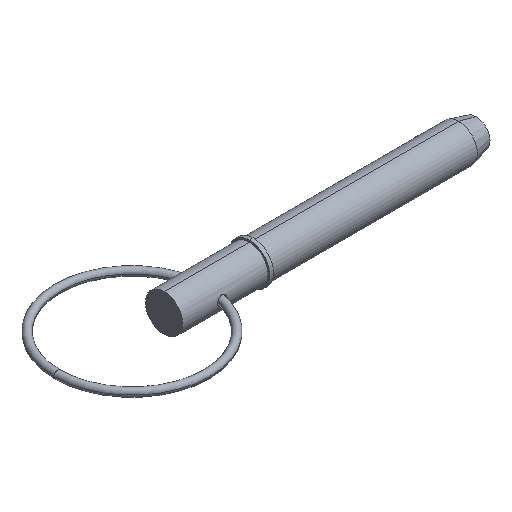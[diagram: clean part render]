
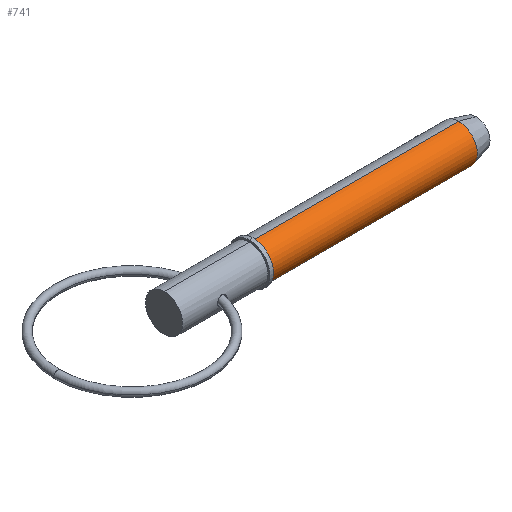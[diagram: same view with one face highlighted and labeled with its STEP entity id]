
A CAD part, isometric view. The second image highlights one B-rep face of the part: STEP entity #741.
In plain terms, the highlighted cylindrical face has radius 3.97 mm (diameter 7.94 mm), a partial arc.
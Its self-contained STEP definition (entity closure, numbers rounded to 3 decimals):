
#44 = CARTESIAN_POINT ( 'NONE',  ( 62.976, 0., 3.97 ) ) ;
#58 = DIRECTION ( 'NONE',  ( 0., 0., -1. ) ) ;
#60 = LINE ( 'NONE', #507, #432 ) ;
#69 = ORIENTED_EDGE ( 'NONE', *, *, #984, .T. ) ;
#179 = CARTESIAN_POINT ( 'NONE',  ( 62.976, 0., 0. ) ) ;
#227 = EDGE_CURVE ( 'NONE', #550, #488, #375, .T. ) ;
#232 = ORIENTED_EDGE ( 'NONE', *, *, #292, .T. ) ;
#285 = CIRCLE ( 'NONE', #910, 3.97 ) ;
#292 = EDGE_CURVE ( 'NONE', #550, #310, #802, .T. ) ;
#303 = ORIENTED_EDGE ( 'NONE', *, *, #826, .F. ) ;
#310 = VERTEX_POINT ( 'NONE', #975 ) ;
#318 = VECTOR ( 'NONE', #437, 1000. ) ;
#346 = DIRECTION ( 'NONE',  ( 1., 0., 0. ) ) ;
#360 = DIRECTION ( 'NONE',  ( 1., 0., 0. ) ) ;
#375 = LINE ( 'NONE', #909, #318 ) ;
#395 = CARTESIAN_POINT ( 'NONE',  ( 19.05, 0., 3.97 ) ) ;
#421 = CYLINDRICAL_SURFACE ( 'NONE', #878, 3.97 ) ;
#426 = CARTESIAN_POINT ( 'NONE',  ( 0., 0., 0. ) ) ;
#432 = VECTOR ( 'NONE', #754, 1000. ) ;
#437 = DIRECTION ( 'NONE',  ( 1., 0., 0. ) ) ;
#488 = VERTEX_POINT ( 'NONE', #44 ) ;
#507 = CARTESIAN_POINT ( 'NONE',  ( 0., 0., -3.97 ) ) ;
#528 = ORIENTED_EDGE ( 'NONE', *, *, #227, .F. ) ;
#550 = VERTEX_POINT ( 'NONE', #395 ) ;
#606 = EDGE_LOOP ( 'NONE', ( #528, #232, #69, #303 ) ) ;
#647 = DIRECTION ( 'NONE',  ( 0., 0., -1. ) ) ;
#725 = DIRECTION ( 'NONE',  ( 1., 0., 0. ) ) ;
#741 = ADVANCED_FACE ( 'NONE', ( #810 ), #421, .T. ) ;
#754 = DIRECTION ( 'NONE',  ( 1., 0., 0. ) ) ;
#802 = CIRCLE ( 'NONE', #925, 3.97 ) ;
#810 = FACE_OUTER_BOUND ( 'NONE', #606, .T. ) ;
#820 = CARTESIAN_POINT ( 'NONE',  ( 19.05, 0., 0. ) ) ;
#826 = EDGE_CURVE ( 'NONE', #488, #1000, #285, .T. ) ;
#866 = DIRECTION ( 'NONE',  ( 0., 0., -1. ) ) ;
#878 = AXIS2_PLACEMENT_3D ( 'NONE', #426, #346, #647 ) ;
#897 = CARTESIAN_POINT ( 'NONE',  ( 62.976, 0., -3.97 ) ) ;
#909 = CARTESIAN_POINT ( 'NONE',  ( 0., 0., 3.97 ) ) ;
#910 = AXIS2_PLACEMENT_3D ( 'NONE', #179, #725, #866 ) ;
#925 = AXIS2_PLACEMENT_3D ( 'NONE', #820, #360, #58 ) ;
#975 = CARTESIAN_POINT ( 'NONE',  ( 19.05, 0., -3.97 ) ) ;
#984 = EDGE_CURVE ( 'NONE', #310, #1000, #60, .T. ) ;
#1000 = VERTEX_POINT ( 'NONE', #897 ) ;
